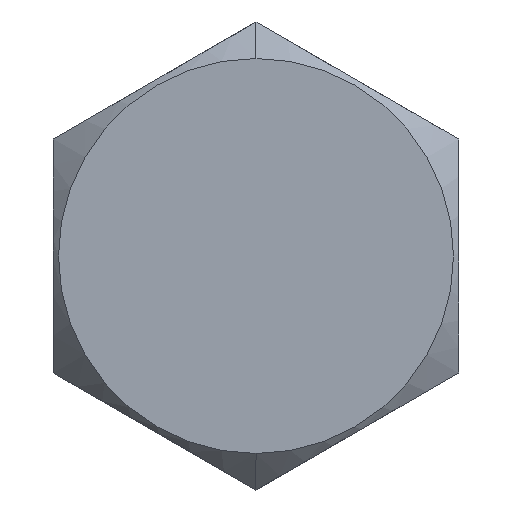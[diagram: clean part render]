
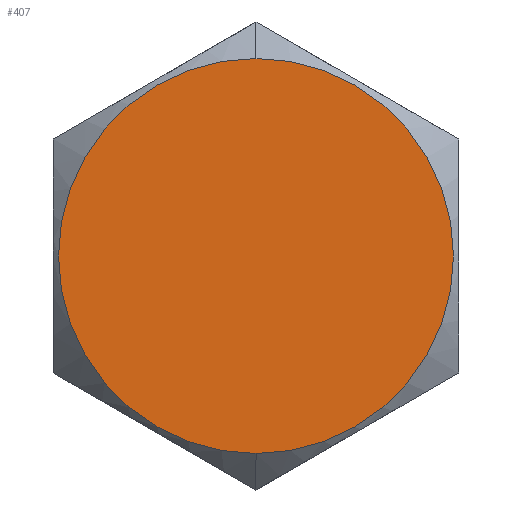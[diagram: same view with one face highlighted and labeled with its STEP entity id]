
A CAD part, left-side view. The second image highlights one B-rep face of the part: STEP entity #407.
In plain terms, the highlighted planar face has unit normal (-1, 0, 0).
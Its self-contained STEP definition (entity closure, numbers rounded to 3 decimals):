
#10 = AXIS2_PLACEMENT_3D ( 'NONE', #123, #569, #250 ) ;
#70 = CARTESIAN_POINT ( 'NONE',  ( 0., 0., 4.874 ) ) ;
#123 = CARTESIAN_POINT ( 'NONE',  ( 0., 0., 0. ) ) ;
#142 = PLANE ( 'NONE',  #164 ) ;
#145 = CARTESIAN_POINT ( 'NONE',  ( 0., 0., 0. ) ) ;
#161 = VERTEX_POINT ( 'NONE', #501 ) ;
#164 = AXIS2_PLACEMENT_3D ( 'NONE', #145, #663, #599 ) ;
#201 = ORIENTED_EDGE ( 'NONE', *, *, #471, .F. ) ;
#217 = CIRCLE ( 'NONE', #10, 4.874 ) ;
#250 = DIRECTION ( 'NONE',  ( 0., 0., -1. ) ) ;
#398 = DIRECTION ( 'NONE',  ( 1., 0., 0. ) ) ;
#407 = ADVANCED_FACE ( 'NONE', ( #533 ), #142, .F. ) ;
#471 = EDGE_CURVE ( 'NONE', #702, #161, #657, .T. ) ;
#501 = CARTESIAN_POINT ( 'NONE',  ( 0., 0., -4.874 ) ) ;
#533 = FACE_OUTER_BOUND ( 'NONE', #735, .T. ) ;
#563 = ORIENTED_EDGE ( 'NONE', *, *, #772, .F. ) ;
#569 = DIRECTION ( 'NONE',  ( 1., 0., 0. ) ) ;
#599 = DIRECTION ( 'NONE',  ( 0., 0., -1. ) ) ;
#650 = DIRECTION ( 'NONE',  ( 0., 0., -1. ) ) ;
#657 = CIRCLE ( 'NONE', #781, 4.874 ) ;
#663 = DIRECTION ( 'NONE',  ( 1., 0., 0. ) ) ;
#702 = VERTEX_POINT ( 'NONE', #70 ) ;
#709 = CARTESIAN_POINT ( 'NONE',  ( 0., 0., 0. ) ) ;
#735 = EDGE_LOOP ( 'NONE', ( #563, #201 ) ) ;
#772 = EDGE_CURVE ( 'NONE', #161, #702, #217, .T. ) ;
#781 = AXIS2_PLACEMENT_3D ( 'NONE', #709, #398, #650 ) ;
